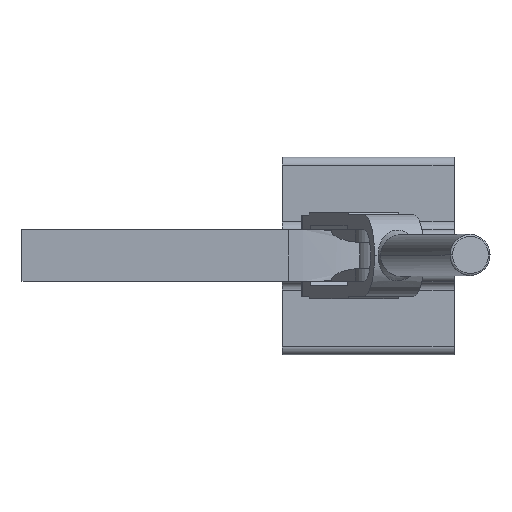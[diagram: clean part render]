
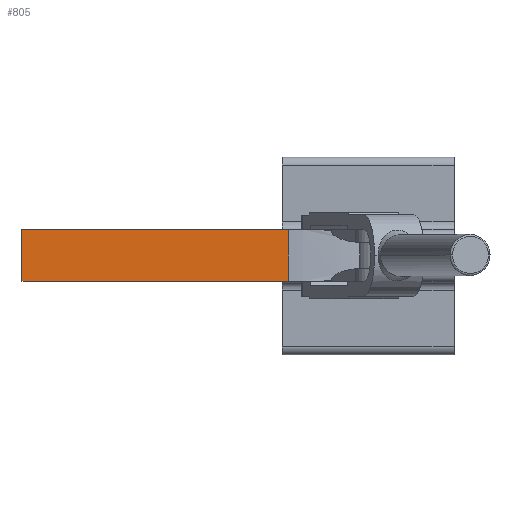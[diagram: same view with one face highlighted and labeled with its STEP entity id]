
A CAD part, top view. The second image highlights one B-rep face of the part: STEP entity #805.
In plain terms, the highlighted planar face has unit normal (0, 0, 1).
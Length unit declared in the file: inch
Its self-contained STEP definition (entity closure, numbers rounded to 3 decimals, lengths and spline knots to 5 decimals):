
#805 = ADVANCED_FACE( '', ( #1163 ), #1164, .T. );
#1163 = FACE_OUTER_BOUND( '', #1561, .T. );
#1164 = PLANE( '', #1562 );
#1561 = EDGE_LOOP( '', ( #2891, #2892, #2893, #2894 ) );
#1562 = AXIS2_PLACEMENT_3D( '', #2895, #2896, #2897 );
#2891 = ORIENTED_EDGE( '', *, *, #3438, .T. );
#2892 = ORIENTED_EDGE( '', *, *, #3439, .F. );
#2893 = ORIENTED_EDGE( '', *, *, #3440, .F. );
#2894 = ORIENTED_EDGE( '', *, *, #3397, .T. );
#2895 = CARTESIAN_POINT( '', ( -3.78125, -0.375, 4.1875 ) );
#2896 = DIRECTION( '', ( 0., 0., 1. ) );
#2897 = DIRECTION( '', ( 1., 0., 0. ) );
#3397 = EDGE_CURVE( '', #4083, #4080, #4084, .T. );
#3438 = EDGE_CURVE( '', #4080, #4152, #4154, .T. );
#3439 = EDGE_CURVE( '', #4155, #4152, #4156, .T. );
#3440 = EDGE_CURVE( '', #4083, #4155, #4157, .T. );
#4080 = VERTEX_POINT( '', #5052 );
#4083 = VERTEX_POINT( '', #5055 );
#4084 = LINE( '', #5056, #5057 );
#4152 = VERTEX_POINT( '', #5182 );
#4154 = LINE( '', #5184, #5185 );
#4155 = VERTEX_POINT( '', #5186 );
#4156 = LINE( '', #5187, #5188 );
#4157 = LINE( '', #5189, #5190 );
#5052 = CARTESIAN_POINT( '', ( 0.09375, -0.375, 4.1875 ) );
#5055 = CARTESIAN_POINT( '', ( -3.78125, -0.375, 4.1875 ) );
#5056 = CARTESIAN_POINT( '', ( -3.78125, -0.375, 4.1875 ) );
#5057 = VECTOR( '', #5938, 1. );
#5182 = CARTESIAN_POINT( '', ( 0.09375, 0.375, 4.1875 ) );
#5184 = CARTESIAN_POINT( '', ( 0.09375, -0.375, 4.1875 ) );
#5185 = VECTOR( '', #5996, 1. );
#5186 = CARTESIAN_POINT( '', ( -3.78125, 0.375, 4.1875 ) );
#5187 = CARTESIAN_POINT( '', ( -3.78125, 0.375, 4.1875 ) );
#5188 = VECTOR( '', #5997, 1. );
#5189 = CARTESIAN_POINT( '', ( -3.78125, -0.375, 4.1875 ) );
#5190 = VECTOR( '', #5998, 1. );
#5938 = DIRECTION( '', ( 1., 0., 0. ) );
#5996 = DIRECTION( '', ( 0., 1., 0. ) );
#5997 = DIRECTION( '', ( 1., 0., 0. ) );
#5998 = DIRECTION( '', ( 0., 1., 0. ) );
